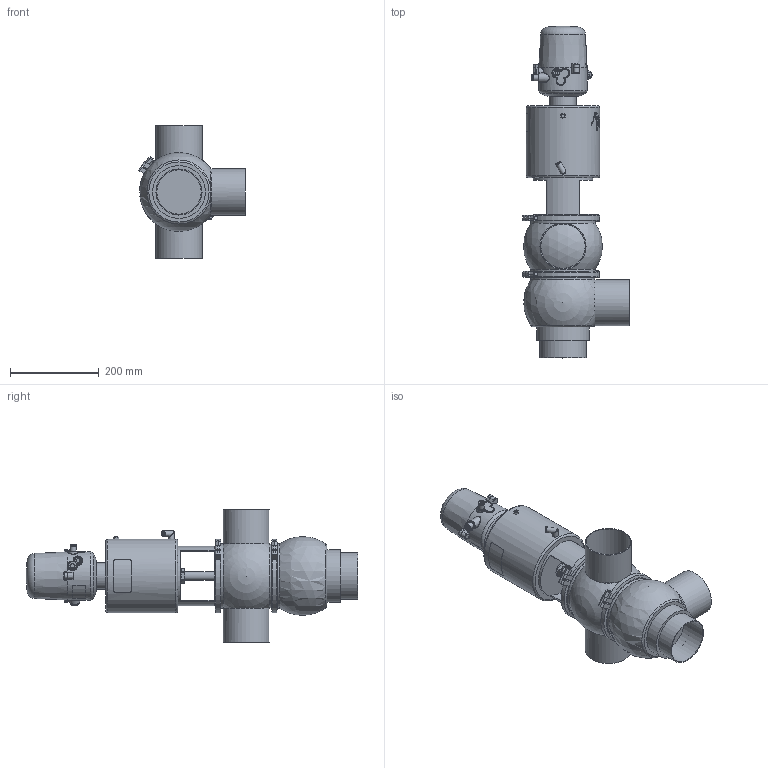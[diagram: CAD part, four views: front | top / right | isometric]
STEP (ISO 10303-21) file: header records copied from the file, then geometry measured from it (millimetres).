
FILE_DESCRIPTION (( 'STEP AP214' ), '1' );
FILE_NAME ('INNOVA K E W DIN 100 T4 AS NC & C-TOP S_10.240.16.0076.STEP', '2024-08-06T09:17:45', ( '' ), ( '' ), 'SwSTEP 2.0', 'SolidWorks 2023', '' );
FILE_SCHEMA (( 'AUTOMOTIVE_DESIGN' ));
Length unit declared in the file: millimetre
Products named in the file (8): 10.240.15.0017_Estàndard; 10.240.15.0002_DIN 100; 10.240.15.0014_T4 AS P0; INNOVA K E W DIN 100 T4 AS NC & C-TOP S_10.240.16.0076; 10.240.15.0001_DN 100; 10.240.15.0007_DIN 100; 10.426.15.0001_C-TOP S - 1 EV; 10.240.15.0010_DN 100
Assembly tree (8 placements, depth 2):
  INNOVA K E W DIN 100 T4 AS NC & C-TOP S_10.240.16.0076
    10.240.15.0007_DIN 100
    10.240.15.0002_DIN 100
    10.240.15.0010_DN 100
    10.240.15.0014_T4 AS P0
    10.240.15.0017_Estàndard
    10.426.15.0001_C-TOP S - 1 EV
    10.240.15.0001_DN 100  x2
Bounding box: 241.26 x 749 x 300 mm (x, y, z)
Volume: 10927230.8 mm3; surface area: 776416.5 mm2
Topology: 8 solids, 8 shells, 1177 faces, 2856 edges, 1901 vertices
Faces by surface type: plane 411, cylinder 358, cone 201, bspline 160, torus 37, sphere 10
Full cylindrical faces by diameter (mm): 0.371 x17, 0.512 x16, 0.658 x16, 0.795 x16, 0.94 x15, 1.098 x15, 1.241 x13, 1.382 x13, 1.523 x11, 1.669 x10, 2.201 x1, 4 x2, 5.5 x2, 6 x2, 6.15 x1, 8 x6, 8.5 x1, 10 x1, 10.5 x1, 11 x2, 12.5 x3, 13 x2, 13.5 x2, 16 x1, 17 x3, 20 x3, 20.5 x1, 22 x2, 31 x1, 34.5 x3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
Entity records: 58213 total; most frequent: CARTESIAN_POINT 27889, ORIENTED_EDGE 4538, DIRECTION 3675, EDGE_CURVE 2269, VERTEX_POINT 1614, EDGE_LOOP 1575, AXIS2_PLACEMENT_3D 1509, FACE_OUTER_BOUND 1336
